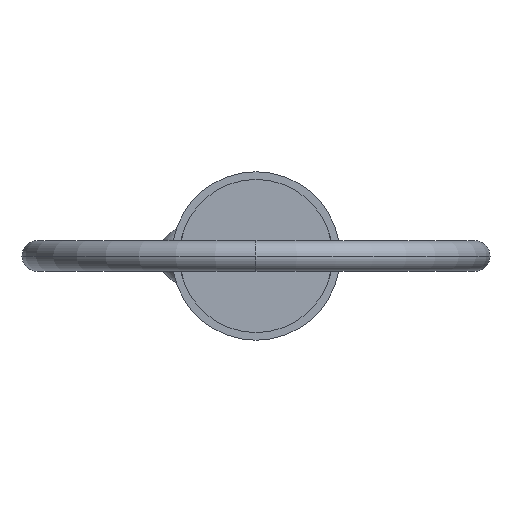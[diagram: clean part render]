
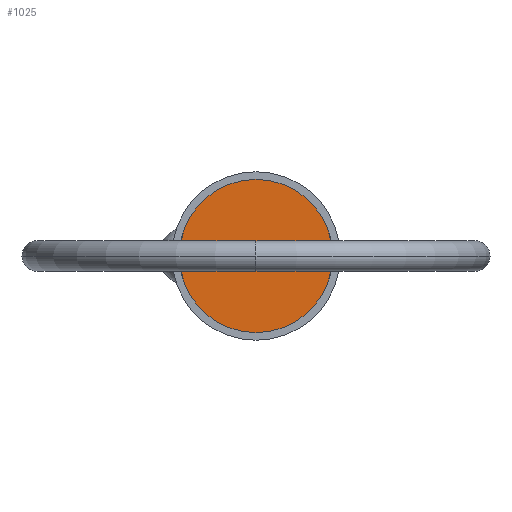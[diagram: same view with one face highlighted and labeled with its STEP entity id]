
A CAD part, left-side view. The second image highlights one B-rep face of the part: STEP entity #1025.
In plain terms, the highlighted planar face has unit normal (-1, 0, 0).
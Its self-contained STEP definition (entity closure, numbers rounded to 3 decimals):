
#5 = AXIS2_PLACEMENT_3D ( 'NONE', #294, #529, #792 ) ;
#76 = DIRECTION ( 'NONE',  ( 0., 0., -1. ) ) ;
#160 = AXIS2_PLACEMENT_3D ( 'NONE', #895, #502, #76 ) ;
#294 = CARTESIAN_POINT ( 'NONE',  ( 0., 0., 0. ) ) ;
#338 = VERTEX_POINT ( 'NONE', #848 ) ;
#353 = CIRCLE ( 'NONE', #5, 11.115 ) ;
#359 = PLANE ( 'NONE',  #524 ) ;
#394 = ORIENTED_EDGE ( 'NONE', *, *, #833, .F. ) ;
#464 = FACE_OUTER_BOUND ( 'NONE', #737, .T. ) ;
#490 = CIRCLE ( 'NONE', #160, 11.115 ) ;
#502 = DIRECTION ( 'NONE',  ( 1., 0., 0. ) ) ;
#524 = AXIS2_PLACEMENT_3D ( 'NONE', #693, #873, #861 ) ;
#529 = DIRECTION ( 'NONE',  ( 1., 0., 0. ) ) ;
#644 = EDGE_CURVE ( 'NONE', #338, #807, #353, .T. ) ;
#693 = CARTESIAN_POINT ( 'NONE',  ( 0., 0., 0. ) ) ;
#737 = EDGE_LOOP ( 'NONE', ( #875, #394 ) ) ;
#743 = CARTESIAN_POINT ( 'NONE',  ( 0., 0., 11.115 ) ) ;
#792 = DIRECTION ( 'NONE',  ( 0., 0., -1. ) ) ;
#807 = VERTEX_POINT ( 'NONE', #743 ) ;
#833 = EDGE_CURVE ( 'NONE', #807, #338, #490, .T. ) ;
#848 = CARTESIAN_POINT ( 'NONE',  ( 0., 0., -11.115 ) ) ;
#861 = DIRECTION ( 'NONE',  ( 0., 0., 1. ) ) ;
#873 = DIRECTION ( 'NONE',  ( -1., 0., 0. ) ) ;
#875 = ORIENTED_EDGE ( 'NONE', *, *, #644, .F. ) ;
#895 = CARTESIAN_POINT ( 'NONE',  ( 0., 0., 0. ) ) ;
#1025 = ADVANCED_FACE ( 'NONE', ( #464 ), #359, .T. ) ;
